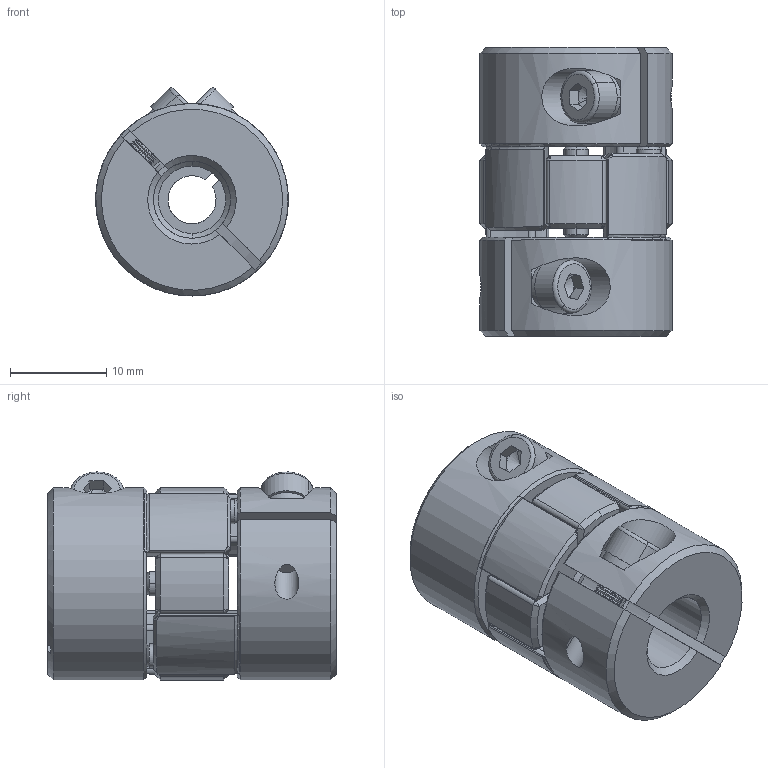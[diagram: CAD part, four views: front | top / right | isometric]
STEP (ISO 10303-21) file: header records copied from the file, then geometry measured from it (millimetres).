
FILE_DESCRIPTION (( 'STEP AP203' ), '1' );
FILE_NAME ('LF-B-D20L30-5-8.STEP', '2021-10-27T02:44:06', ( '' ), ( '' ), 'SwSTEP 2.0', 'SolidWorks 2018', '' );
FILE_SCHEMA (( 'CONFIG_CONTROL_DESIGN' ));
Length unit declared in the file: millimetre
Products named in the file (1): LF-B-D20L30-5-8
Bounding box: 20 x 30 x 21.62 mm (x, y, z)
Volume: 7608.3 mm3; surface area: 4878 mm2
Topology: 1 solids, 1 shells, 518 faces, 1253 edges, 691 vertices
Faces by surface type: cone 252, cylinder 192, plane 62, torus 12
Entity records: 15024 total; most frequent: CARTESIAN_POINT 2904, DIRECTION 2742, ORIENTED_EDGE 2426, EDGE_CURVE 1213, AXIS2_PLACEMENT_3D 1107, VERTEX_POINT 691, CIRCLE 588, EDGE_LOOP 546
